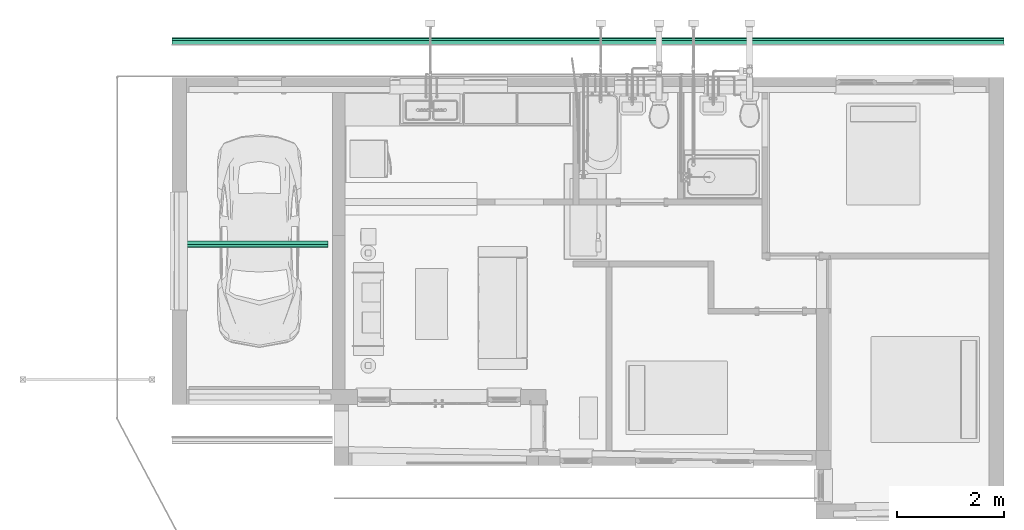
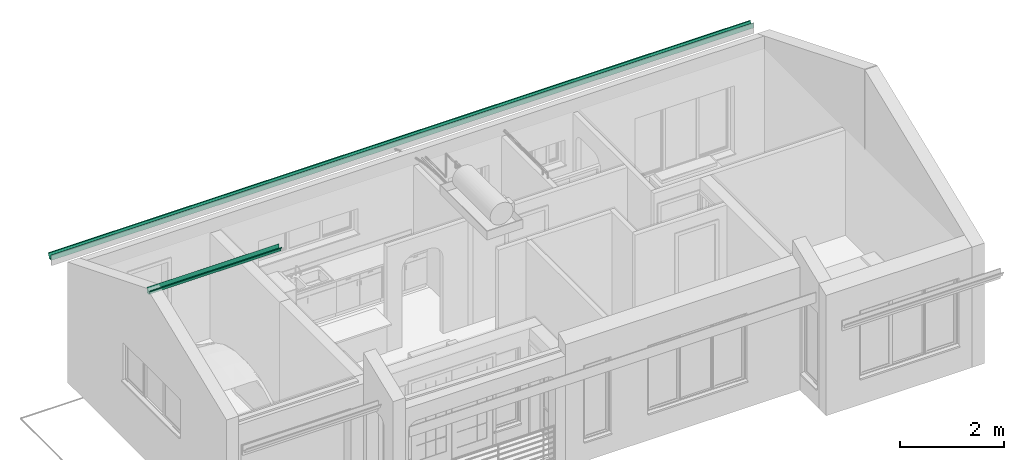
# One storey, part 16 of 41: 1 flow segment.
"""IFC2X3 building model written with IfcOpenShell, lengths in millimetres."""

from ifc_helpers import new_model, entity, si_unit, converted_unit, derived_unit, direction, frame, origin, place, context, subcontext, project, spatial, polyline, outline, extrude, source, transform, mapped, type_object, type_shapes, element, save


model = new_model("IFC2X3")

# Units and contexts
model_context = context("Model", 3, precision=0.01, world=origin(), true_north=direction((6.12303176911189e-17, 1.0)))
body_context = subcontext(model_context, "Body", "Model", "MODEL_VIEW")
ifc_project = project(units=[si_unit("LENGTHUNIT", "METRE", prefix="MILLI"), si_unit("AREAUNIT", "SQUARE_METRE"), si_unit("VOLUMEUNIT", "CUBIC_METRE"), converted_unit("PLANEANGLEUNIT", "DEGREE", entity("IfcRatioMeasure", 0.0174532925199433), si_unit("PLANEANGLEUNIT", "RADIAN"), dimensions=[0, 0, 0, 0, 0, 0, 0]), si_unit("MASSUNIT", "GRAM", prefix="KILO"), derived_unit("MASSDENSITYUNIT", [(si_unit("MASSUNIT", "GRAM", prefix="KILO"), 1), (si_unit("LENGTHUNIT", "METRE"), -3)]), si_unit("TIMEUNIT", "SECOND"), si_unit("FREQUENCYUNIT", "HERTZ"), si_unit("THERMODYNAMICTEMPERATUREUNIT", "DEGREE_CELSIUS"), derived_unit("THERMALTRANSMITTANCEUNIT", [(si_unit("MASSUNIT", "GRAM", prefix="KILO"), 1), (si_unit("THERMODYNAMICTEMPERATUREUNIT", "KELVIN"), -1), (si_unit("TIMEUNIT", "SECOND"), -3)]), derived_unit("VOLUMETRICFLOWRATEUNIT", [(si_unit("LENGTHUNIT", "METRE"), 3), (si_unit("TIMEUNIT", "SECOND"), -1)]), si_unit("ELECTRICCURRENTUNIT", "AMPERE"), si_unit("ELECTRICVOLTAGEUNIT", "VOLT"), si_unit("POWERUNIT", "WATT"), si_unit("FORCEUNIT", "NEWTON", prefix="KILO"), si_unit("ILLUMINANCEUNIT", "LUX"), si_unit("LUMINOUSFLUXUNIT", "LUMEN"), si_unit("LUMINOUSINTENSITYUNIT", "CANDELA"), derived_unit("USERDEFINED", [(si_unit("MASSUNIT", "GRAM", prefix="KILO"), -1), (si_unit("LENGTHUNIT", "METRE"), -2), (si_unit("TIMEUNIT", "SECOND"), 3), (si_unit("LUMINOUSFLUXUNIT", "LUMEN"), 1)]), derived_unit("LINEARVELOCITYUNIT", [(si_unit("LENGTHUNIT", "METRE"), 1), (si_unit("TIMEUNIT", "SECOND"), -1)]), si_unit("PRESSUREUNIT", "PASCAL"), derived_unit("USERDEFINED", [(si_unit("LENGTHUNIT", "METRE"), -2), (si_unit("MASSUNIT", "GRAM", prefix="KILO"), 1), (si_unit("TIMEUNIT", "SECOND"), -2)])], contexts=[model_context])

# Site, building, storey
site_placement = place(None, origin())
site = spatial("IfcSite", under=ifc_project, at=site_placement, Name="Surface", CompositionType="ELEMENT")
building_placement = place(site_placement, origin())
building = spatial("IfcBuilding", under=site, at=building_placement, CompositionType="ELEMENT")
storey_placement = place(building_placement, frame((0.0, 0.0, 300.0)))
storey = spatial("IfcBuildingStorey", under=building, at=storey_placement, Name="F.F.L", CompositionType="ELEMENT", Elevation=300.0)

# Flow segment
pipe_segment_type = type_object("IfcPipeSegmentType", Name="Gutter:Gutter", PredefinedType="GUTTER")
shared_shape = source(origin(), body_context, "Body", "SweptSolid", [
    extrude(outline(polyline([(-78.062528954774, -78.7908803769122), (-3.86252895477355, -78.7908803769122), (34.2374710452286, 20.721352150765), (46.9374710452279, 20.7213521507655), (46.9374710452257, 33.4213521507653), (34.2374710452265, 33.4213521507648), (34.2374710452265, 30.246352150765), (43.7624710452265, 30.246352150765), (43.7624710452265, 23.8963521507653), (31.875173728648, 23.8963521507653), (-6.22482627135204, -75.6158803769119), (-74.8875289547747, -75.6158803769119), (-74.8875289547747, 46.1213521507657), (-78.062528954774, 46.1213521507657), (-78.062528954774, -78.7908803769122)])), frame((-12086.8751700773, 11525.1502576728, 2404.56264082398), z_axis=(1.0, 0.0, 0.0), x_axis=(0.0, 1.0, 0.0)), (0.0, 0.0, 1.0), 15550.0),
    extrude(outline(polyline([(-78.7908803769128, -78.0625289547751), (46.1213521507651, -78.0625289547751), (46.1213521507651, -74.8875289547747), (-75.615880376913, -74.8875289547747), (-75.6158803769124, -6.22482627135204), (23.8963521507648, 31.8751737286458), (23.8963521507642, 43.7624710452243), (30.2463521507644, 43.7624710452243), (30.2463521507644, 34.2374710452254), (33.4213521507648, 34.2374710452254), (33.4213521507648, 46.9374710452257), (20.7213521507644, 46.9374710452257), (20.7213521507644, 34.2374710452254), (-78.7908803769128, -3.86252895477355), (-78.7908803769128, -78.0625289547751)])), frame((-12086.8751700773, 7697.52519976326, 3880.26843068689), z_axis=(1.0, 0.0, 0.0), x_axis=(0.0, 0.0, 1.0)), (0.0, 0.0, 1.0), 2919.99999999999),
])
type_shapes(pipe_segment_type, [shared_shape])
flow_segment_placement = place(storey_placement, origin())
element("IfcFlowSegment", 1, at=flow_segment_placement, inside=storey, type_object=pipe_segment_type, Name="Gutter:Gutter", ObjectType="Gutter:Gutter", context=body_context, shape_type="MappedRepresentation", body=[
    mapped(shared_shape, transform((0.0, 0.0, 0.0), scale=1.0)),
])

save(model, "model.ifc")
